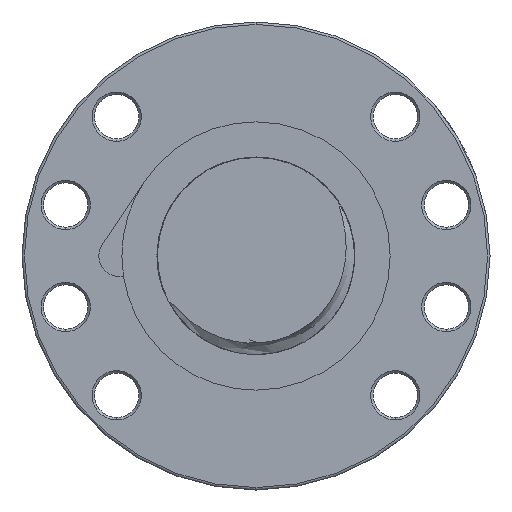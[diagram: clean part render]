
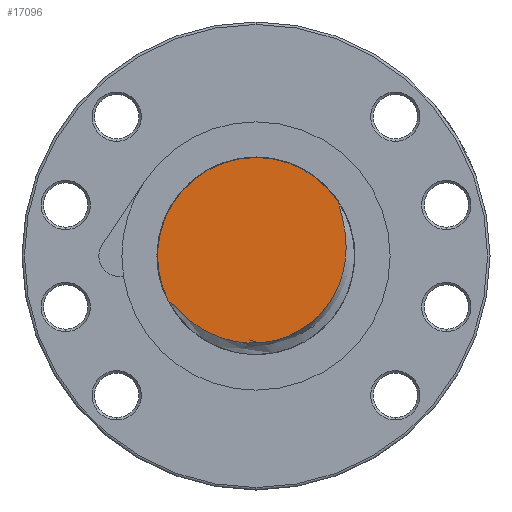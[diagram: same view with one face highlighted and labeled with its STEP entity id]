
A CAD part, left-side view. The second image highlights one B-rep face of the part: STEP entity #17096.
In plain terms, the highlighted planar face has unit normal (-1, 0, 0).
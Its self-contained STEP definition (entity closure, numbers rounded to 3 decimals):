
#5265 = AXIS2_PLACEMENT_3D ( 'NONE', #5337, #5336, #5335 ) ;
#5266 = FACE_OUTER_BOUND ( 'NONE', #17097, .T. ) ;
#5311 = CARTESIAN_POINT ( 'NONE',  ( -232., 0.717, -17.707 ) ) ;
#5312 = CARTESIAN_POINT ( 'NONE',  ( -232., 1.344, -17.695 ) ) ;
#5313 = CARTESIAN_POINT ( 'NONE',  ( -232., 3.208, -17.57 ) ) ;
#5314 = CARTESIAN_POINT ( 'NONE',  ( -232., 4.426, -17.369 ) ) ;
#5315 = CARTESIAN_POINT ( 'NONE',  ( -232., 6.217, -16.899 ) ) ;
#5316 = CARTESIAN_POINT ( 'NONE',  ( -232., 6.808, -16.714 ) ) ;
#5317 = CARTESIAN_POINT ( 'NONE',  ( -232., 7.978, -16.288 ) ) ;
#5318 = CARTESIAN_POINT ( 'NONE',  ( -232., 8.556, -16.046 ) ) ;
#5319 = CARTESIAN_POINT ( 'NONE',  ( -232., 10.237, -15.255 ) ) ;
#5320 = CARTESIAN_POINT ( 'NONE',  ( -232., 11.298, -14.634 ) ) ;
#5321 = CARTESIAN_POINT ( 'NONE',  ( -232., 12.813, -13.577 ) ) ;
#5322 = CARTESIAN_POINT ( 'NONE',  ( -232., 13.305, -13.203 ) ) ;
#5323 = CARTESIAN_POINT ( 'NONE',  ( -232., 14.265, -12.418 ) ) ;
#5324 = CARTESIAN_POINT ( 'NONE',  ( -232., 14.734, -12.006 ) ) ;
#5325 = CARTESIAN_POINT ( 'NONE',  ( -232., 15.645, -11.157 ) ) ;
#5326 = CARTESIAN_POINT ( 'NONE',  ( -232., 16.088, -10.72 ) ) ;
#5327 = CARTESIAN_POINT ( 'NONE',  ( -232., 16.748, -10.058 ) ) ;
#5328 = CARTESIAN_POINT ( 'NONE',  ( -232., 16.967, -9.836 ) ) ;
#5329 = CARTESIAN_POINT ( 'NONE',  ( -232., 17.41, -9.399 ) ) ;
#5330 = CARTESIAN_POINT ( 'NONE',  ( -232., 17.634, -9.182 ) ) ;
#5331 = CARTESIAN_POINT ( 'NONE',  ( -232., 17.87, -8.981 ) ) ;
#5332 = B_SPLINE_CURVE_WITH_KNOTS ( 'NONE', 3,
 ( #5331, #5330, #5329, #5328, #5327, #5326, #5325, #5324, #5323, #5322, #5321, #5320, #5319, #5318, #5317, #5316, #5315, #5314, #5313, #5312, #5311, #5387, #5386, #5385, #5384, #5383, #5382, #5381, #5380, #5379, #5378, #5377, #5376, #5375, #5374, #5373, #5372, #5371, #5370, #5369, #5368, #5367, #5366, #5365, #5364, #5363, #5362, #5361, #5360, #5359, #5358, #5357, #5356, #5355, #5354, #5353, #5352, #5351 ),
 .UNSPECIFIED., .F., .F.,
 ( 4, 2, 2, 2, 2, 2, 2, 2, 2, 2, 2, 2, 2, 2, 2, 2, 2, 2, 2, 2, 2, 2, 2, 2, 2, 2, 2, 2, 4 ),
 ( 0.016, 0.017, 0.018, 0.019, 0.021, 0.023, 0.027, 0.029, 0.03, 0.034, 0.036, 0.038, 0.04, 0.042, 0.045, 0.047, 0.049, 0.053, 0.054, 0.056, 0.06, 0.062, 0.064, 0.065, 0.067, 0.071, 0.073, 0.074, 0.075 ),
 .UNSPECIFIED. ) ;
#5335 = DIRECTION ( 'NONE',  ( 0., 0., -1. ) ) ;
#5336 = DIRECTION ( 'NONE',  ( 1., 0., 0. ) ) ;
#5337 = CARTESIAN_POINT ( 'NONE',  ( -232., 0., 0. ) ) ;
#5342 = PLANE ( 'NONE',  #5265 ) ;
#5351 = CARTESIAN_POINT ( 'NONE',  ( -232., -16.713, 10.986 ) ) ;
#5352 = CARTESIAN_POINT ( 'NONE',  ( -232., -16.769, 10.679 ) ) ;
#5353 = CARTESIAN_POINT ( 'NONE',  ( -232., -16.845, 10.377 ) ) ;
#5354 = CARTESIAN_POINT ( 'NONE',  ( -232., -17.002, 9.774 ) ) ;
#5355 = CARTESIAN_POINT ( 'NONE',  ( -232., -17.084, 9.474 ) ) ;
#5356 = CARTESIAN_POINT ( 'NONE',  ( -232., -17.328, 8.572 ) ) ;
#5357 = CARTESIAN_POINT ( 'NONE',  ( -232., -17.485, 7.97 ) ) ;
#5358 = CARTESIAN_POINT ( 'NONE',  ( -232., -17.904, 6.153 ) ) ;
#5359 = CARTESIAN_POINT ( 'NONE',  ( -232., -18.111, 4.93 ) ) ;
#5360 = CARTESIAN_POINT ( 'NONE',  ( -232., -18.271, 3.068 ) ) ;
#5361 = CARTESIAN_POINT ( 'NONE',  ( -232., -18.299, 2.442 ) ) ;
#5362 = CARTESIAN_POINT ( 'NONE',  ( -232., -18.302, 1.202 ) ) ;
#5363 = CARTESIAN_POINT ( 'NONE',  ( -232., -18.276, 0.584 ) ) ;
#5364 = CARTESIAN_POINT ( 'NONE',  ( -232., -18.171, -0.647 ) ) ;
#5365 = CARTESIAN_POINT ( 'NONE',  ( -232., -18.091, -1.259 ) ) ;
#5366 = CARTESIAN_POINT ( 'NONE',  ( -232., -17.875, -2.479 ) ) ;
#5367 = CARTESIAN_POINT ( 'NONE',  ( -232., -17.738, -3.088 ) ) ;
#5368 = CARTESIAN_POINT ( 'NONE',  ( -232., -17.242, -4.893 ) ) ;
#5369 = CARTESIAN_POINT ( 'NONE',  ( -232., -16.802, -6.048 ) ) ;
#5370 = CARTESIAN_POINT ( 'NONE',  ( -232., -15.982, -7.71 ) ) ;
#5371 = CARTESIAN_POINT ( 'NONE',  ( -232., -15.682, -8.251 ) ) ;
#5372 = CARTESIAN_POINT ( 'NONE',  ( -232., -15.026, -9.31 ) ) ;
#5373 = CARTESIAN_POINT ( 'NONE',  ( -232., -14.67, -9.826 ) ) ;
#5374 = CARTESIAN_POINT ( 'NONE',  ( -232., -13.539, -11.302 ) ) ;
#5375 = CARTESIAN_POINT ( 'NONE',  ( -232., -12.697, -12.203 ) ) ;
#5376 = CARTESIAN_POINT ( 'NONE',  ( -232., -11.301, -13.431 ) ) ;
#5377 = CARTESIAN_POINT ( 'NONE',  ( -232., -10.81, -13.821 ) ) ;
#5378 = CARTESIAN_POINT ( 'NONE',  ( -232., -9.797, -14.546 ) ) ;
#5379 = CARTESIAN_POINT ( 'NONE',  ( -232., -9.277, -14.881 ) ) ;
#5380 = CARTESIAN_POINT ( 'NONE',  ( -232., -7.672, -15.804 ) ) ;
#5381 = CARTESIAN_POINT ( 'NONE',  ( -232., -6.547, -16.313 ) ) ;
#5382 = CARTESIAN_POINT ( 'NONE',  ( -232., -4.772, -16.91 ) ) ;
#5383 = CARTESIAN_POINT ( 'NONE',  ( -232., -4.171, -17.079 ) ) ;
#5384 = CARTESIAN_POINT ( 'NONE',  ( -232., -2.965, -17.355 ) ) ;
#5385 = CARTESIAN_POINT ( 'NONE',  ( -232., -2.358, -17.463 ) ) ;
#5386 = CARTESIAN_POINT ( 'NONE',  ( -232., -1.136, -17.621 ) ) ;
#5387 = CARTESIAN_POINT ( 'NONE',  ( -232., -0.521, -17.669 ) ) ;
#16168 = EDGE_CURVE ( 'NONE', #16169, #16171, #25094, .T. ) ;
#16169 = VERTEX_POINT ( 'NONE', #25089 ) ;
#16171 = VERTEX_POINT ( 'NONE', #25088 ) ;
#16733 = EDGE_CURVE ( 'NONE', #16171, #16734, #43958, .T. ) ;
#16734 = VERTEX_POINT ( 'NONE', #43948 ) ;
#17096 = ADVANCED_FACE ( 'NONE', ( #5266 ), #5342, .F. ) ;
#17097 = EDGE_LOOP ( 'NONE', ( #17098, #17099, #17101 ) ) ;
#17098 = ORIENTED_EDGE ( 'NONE', *, *, #16168, .F. ) ;
#17099 = ORIENTED_EDGE ( 'NONE', *, *, #17100, .T. ) ;
#17100 = EDGE_CURVE ( 'NONE', #16169, #16734, #5332, .T. ) ;
#17101 = ORIENTED_EDGE ( 'NONE', *, *, #16733, .F. ) ;
#25088 = CARTESIAN_POINT ( 'NONE',  ( -232., 0., 20. ) ) ;
#25089 = CARTESIAN_POINT ( 'NONE',  ( -232., 17.87, -8.981 ) ) ;
#25090 = DIRECTION ( 'NONE',  ( 0., 1., 0. ) ) ;
#25091 = DIRECTION ( 'NONE',  ( 1., 0., 0. ) ) ;
#25092 = CARTESIAN_POINT ( 'NONE',  ( -232., 0., 0. ) ) ;
#25093 = AXIS2_PLACEMENT_3D ( 'NONE', #25092, #25091, #25090 ) ;
#25094 = CIRCLE ( 'NONE', #25093, 20. ) ;
#43948 = CARTESIAN_POINT ( 'NONE',  ( -232., -16.713, 10.986 ) ) ;
#43951 = DIRECTION ( 'NONE',  ( 0., 1., 0. ) ) ;
#43953 = DIRECTION ( 'NONE',  ( 1., 0., 0. ) ) ;
#43954 = CARTESIAN_POINT ( 'NONE',  ( -232., 0., 0. ) ) ;
#43956 = AXIS2_PLACEMENT_3D ( 'NONE', #43954, #43953, #43951 ) ;
#43958 = CIRCLE ( 'NONE', #43956, 20. ) ;
